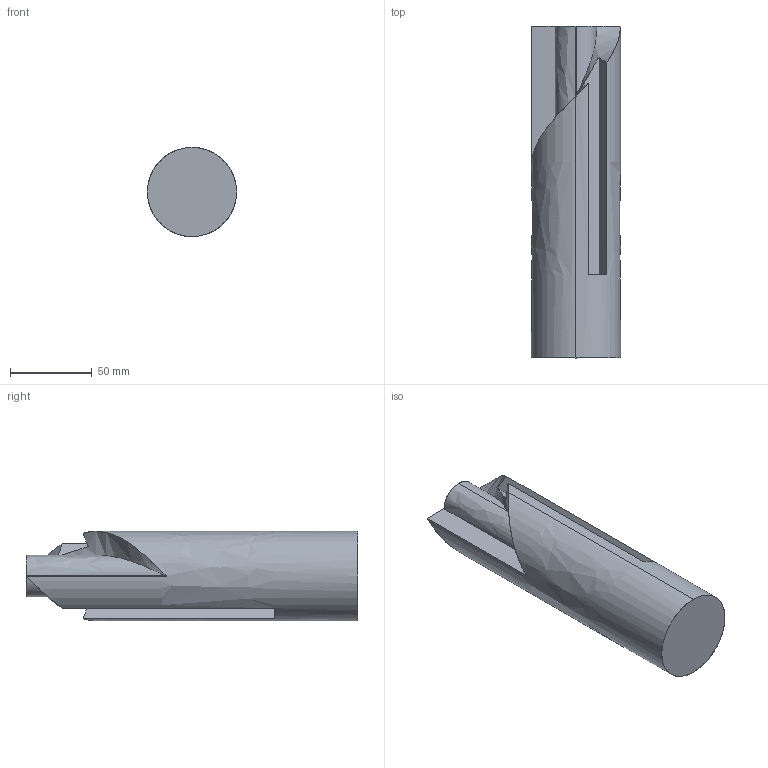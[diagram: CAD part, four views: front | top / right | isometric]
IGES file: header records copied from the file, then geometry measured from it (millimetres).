
Start section: SolidWorks IGES file using analytic representation for surfaces
Global section: file name: J:\groups\me437w2012\CAD\CNCpusher.IGS; native system: SolidWorks 2011; preprocessor: SolidWorks 2011; author: anderguy; date: 120319.235609; units: inch
Bounding box: 54.61 x 203.2 x 54.61 mm (x, y, z)
Surface area: 43809.1 mm2 (no closed solid volume)
Topology: 0 solids, 0 shells, 19 faces, 440 edges, 440 vertices
Faces by surface type: bspline 14, revolution 5
